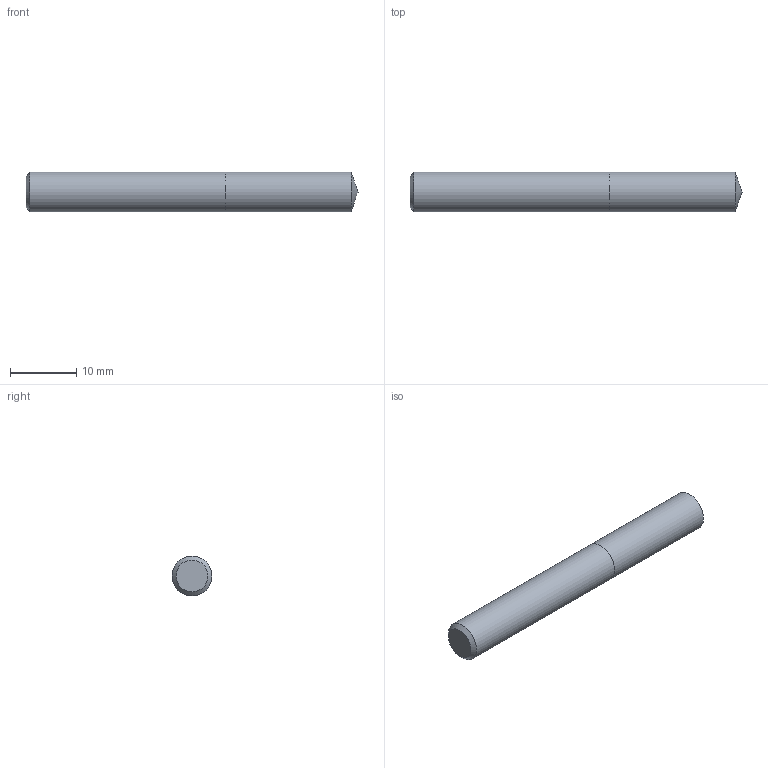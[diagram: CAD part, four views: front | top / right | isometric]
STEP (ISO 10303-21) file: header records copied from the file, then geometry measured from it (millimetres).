
FILE_DESCRIPTION (( 'STEP AP214' ), '1' );
FILE_NAME ('03-2227.STEP', '2022-02-07T07:05:13', ( 'USER' ), ( '' ), 'SwSTEP 2.0', 'SolidWorks 2018', '' );
FILE_SCHEMA (( 'AUTOMOTIVE_DESIGN' ));
Length unit declared in the file: millimetre
Products named in the file (1): 03-2227
Bounding box: 50 x 6 x 6 mm (x, y, z)
Volume: 1391.1 mm3; surface area: 1030.6 mm2
Topology: 2 solids, 2 shells, 7 faces, 11 edges, 7 vertices
Faces by surface type: plane 3, cylinder 2, cone 2
Full cylindrical faces by diameter (mm): 6 x2
Entity records: 189 total; most frequent: DIRECTION 26, CARTESIAN_POINT 18, AXIS2_PLACEMENT_3D 13, EDGE_LOOP 10, ORIENTED_EDGE 10, FACE_OUTER_BOUND 9, ADVANCED_FACE 7, UNCERTAINTY_MEASURE_WITH_UNIT 6
